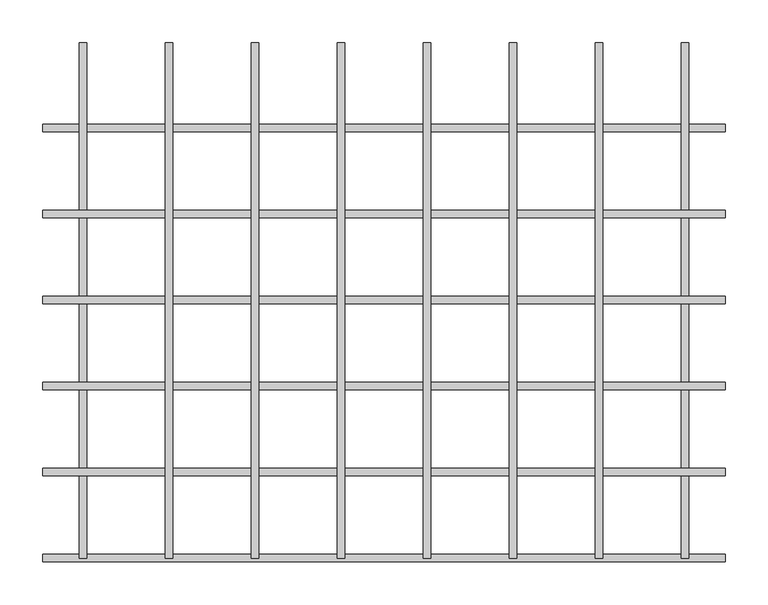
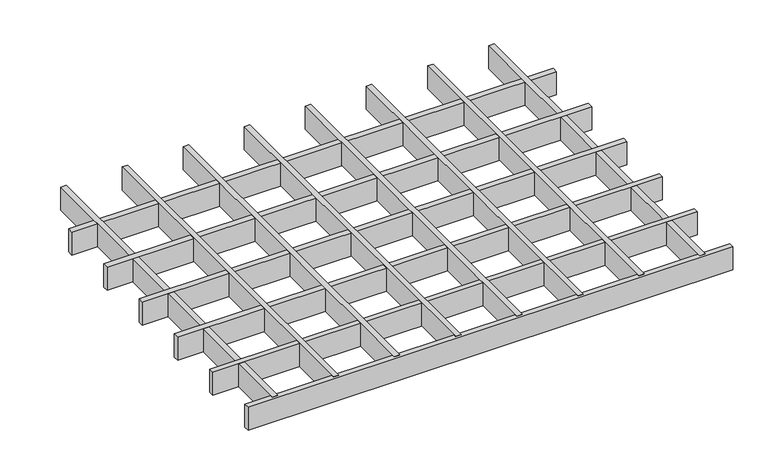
"""IFC4 building model written with IfcOpenShell, lengths in millimetres: proxy geometry, durlum_GEO_panel : durlum_GEO_9_length_cut."""

import ifcopenshell
import ifcopenshell.guid

model = None  # the IFC model being written
_history = None  # IfcOwnerHistory: only IFC2X3 demands one
_inside = {}  # id of a spatial element -> (the spatial element, [elements in it])
_under = {}  # id of a project, library or spatial element -> (it, [spatial elements below it])
_declared = {}  # id of a project -> (the project, [libraries it declares])
_typed = {}  # id of a type object -> (the type object, [elements of that type])
_made_of = {}  # id of a material, layer set ... -> (it, [elements and type objects made of it])


def new_model(schema):
    """Start an empty IFC model of exactly this schema.

    Asked for "IFC4X3", IfcOpenShell would pick the latest addendum, in which some entities
    have other attributes; the version numbers below select the first issue.
    IFC2X3 requires an IfcOwnerHistory on every rooted entity: one is made here for all.
    """
    global model, _history
    if schema == "IFC4X3":
        model = ifcopenshell.file(schema_version=(4, 3, 0, 0))
    else:
        model = ifcopenshell.file(schema=schema)
    _inside.clear()
    _under.clear()
    _declared.clear()
    _typed.clear()
    _made_of.clear()
    _history = None
    if model.schema == "IFC2X3":
        org = make("IfcOrganization", Name="unknown")
        user = make(
            "IfcPersonAndOrganization",
            ThePerson=make("IfcPerson", FamilyName="unknown"),
            TheOrganization=org,
        )
        app = make(
            "IfcApplication",
            ApplicationDeveloper=org,
            Version="unknown",
            ApplicationFullName="unknown",
            ApplicationIdentifier="unknown",
        )
        _history = make(
            "IfcOwnerHistory",
            OwningUser=user,
            OwningApplication=app,
            ChangeAction="ADDED",
            CreationDate=0,
        )
    return model


def make(cls, **values):
    """One entity of the class cls with the attributes given. An attribute that is None is left unset."""
    return model.create_entity(
        cls, **{name: value for name, value in values.items() if value is not None}
    )


def rooted(cls, **values):
    """An entity with a GlobalId (a new one), such as an element, a storey or a relation."""
    return make(cls, GlobalId=ifcopenshell.guid.new(), OwnerHistory=_history, **values)


def si_unit(unit_type, name, prefix=None):
    """IfcSIUnit, for example si_unit("LENGTHUNIT", "METRE", prefix="MILLI")."""
    return make("IfcSIUnit", UnitType=unit_type, Prefix=prefix, Name=name)


def assignment(units):
    """IfcUnitAssignment: the units of a project."""
    return None if units is None else make("IfcUnitAssignment", Units=units)


def point(xyz):
    """IfcCartesianPoint."""
    return None if xyz is None else make("IfcCartesianPoint", Coordinates=xyz)


def direction(xyz):
    """IfcDirection."""
    return None if xyz is None else make("IfcDirection", DirectionRatios=xyz)


def frame(location, z_axis=None, x_axis=None):
    """IfcAxis2Placement3D, a coordinate frame: its origin and axes. An axis left out is left unset."""
    return make(
        "IfcAxis2Placement3D",
        Location=point(location),
        Axis=direction(z_axis),
        RefDirection=direction(x_axis),
    )


def origin():
    """The frame at (0, 0, 0) with its axes left unset."""
    return frame((0.0, 0.0, 0.0))


def origin_with_axes():
    """The frame at (0, 0, 0) with the z axis (0, 0, 1) and the x axis (1, 0, 0) written out."""
    return frame((0.0, 0.0, 0.0), z_axis=(0.0, 0.0, 1.0), x_axis=(1.0, 0.0, 0.0))


def place(relative_to, where):
    """IfcLocalPlacement: puts the frame where relative to a parent placement (None: the world)."""
    return make(
        "IfcLocalPlacement", PlacementRelTo=relative_to, RelativePlacement=where
    )


def context(
    kind, dimensions, precision=None, world=None, true_north=None, identifier=None
):
    """IfcGeometricRepresentationContext, for example the 3D "Model" context."""
    return make(
        "IfcGeometricRepresentationContext",
        ContextIdentifier=identifier,
        ContextType=kind,
        CoordinateSpaceDimension=dimensions,
        Precision=precision,
        WorldCoordinateSystem=world,
        TrueNorth=true_north,
    )


def project(units=None, contexts=None):
    """IfcProject with its units and contexts."""
    return rooted(
        "IfcProject",
        Name="project",
        RepresentationContexts=contexts,
        UnitsInContext=assignment(units),
    )


def spatial(cls, under=None, at=None, **own):
    """A site, building, storey or space (cls), placed at a placement, below another one or the project."""
    s = rooted(cls, ObjectPlacement=at, **own)
    if under is not None:
        _under.setdefault(under.id(), (under, []))[1].append(s)
    return s


def polyline(points):
    """IfcPolyline through the points."""
    return make("IfcPolyline", Points=[point(p) for p in points])


def outline(outer, holes=None, kind="AREA"):
    """IfcArbitraryClosedProfileDef: a profile drawn as a closed curve; with holes, ...WithVoids."""
    if holes is None:
        return make("IfcArbitraryClosedProfileDef", ProfileType=kind, OuterCurve=outer)
    return make(
        "IfcArbitraryProfileDefWithVoids",
        ProfileType=kind,
        OuterCurve=outer,
        InnerCurves=holes,
    )


def extrude(swept, where, along, depth):
    """IfcExtrudedAreaSolid: the profile swept, set in the frame where, extruded along a direction by depth."""
    return make(
        "IfcExtrudedAreaSolid",
        SweptArea=swept,
        Position=where,
        ExtrudedDirection=direction(along),
        Depth=depth,
    )


def shape(context_of_items, identifier, shape_type, items):
    """IfcShapeRepresentation: the items that make up one representation, for example the "Body"."""
    return make(
        "IfcShapeRepresentation",
        ContextOfItems=context_of_items,
        RepresentationIdentifier=identifier,
        RepresentationType=shape_type,
        Items=items,
    )


def source(mapping_origin, context_of_items, identifier, shape_type, items):
    """IfcRepresentationMap: a shape defined once, which mapped items show again and again."""
    return make(
        "IfcRepresentationMap",
        MappingOrigin=mapping_origin,
        MappedRepresentation=shape(context_of_items, identifier, shape_type, items),
    )


def transform(
    local_origin,
    x_axis=None,
    y_axis=None,
    z_axis=None,
    scale=None,
    scale2=None,
    scale3=None,
    uniform=True,
):
    """IfcCartesianTransformationOperator3D, or its non-uniform kind. x_axis, y_axis, z_axis: its Axis1, 2, 3."""
    if uniform:
        return make(
            "IfcCartesianTransformationOperator3D",
            Axis1=direction(x_axis),
            Axis2=direction(y_axis),
            LocalOrigin=point(local_origin),
            Scale=scale,
            Axis3=direction(z_axis),
        )
    return make(
        "IfcCartesianTransformationOperator3DnonUniform",
        Axis1=direction(x_axis),
        Axis2=direction(y_axis),
        LocalOrigin=point(local_origin),
        Scale=scale,
        Axis3=direction(z_axis),
        Scale2=scale2,
        Scale3=scale3,
    )


def mapped(mapping_source, mapping_target):
    """IfcMappedItem: shows the shape of a source again, moved by a transform."""
    return make(
        "IfcMappedItem", MappingSource=mapping_source, MappingTarget=mapping_target
    )


def made_of(thing, what):
    """Note that an element or type object is made of a material, layer set ...; save() writes the relation."""
    if what is not None:
        _made_of.setdefault(what.id(), (what, []))[1].append(thing)
    return thing


def element(
    cls,
    number,
    at=None,
    inside=None,
    cuts=None,
    type_object=None,
    material=None,
    context=None,
    identifier="Body",
    shape_type=None,
    held_by="IfcProductDefinitionShape",
    body=None,
    shapes=None,
    **own,
):
    """One element of the class cls, such as IfcWall. Its Tag is "e" and its number.

    at: its placement. inside: the storey or other place that contains it. cuts: it is an
    opening in that element (IfcRelVoidsElement). A single representation is given by context,
    identifier, shape_type and body (its items); several are given by shapes. held_by: the class
    of the entity that holds the representations. save() writes the other relations.
    """
    e = rooted(cls, Tag="e%d" % number, ObjectPlacement=at, **own)
    if body is not None:
        shapes = [shape(context, identifier, shape_type, body)]
    if shapes is not None:
        e.Representation = make(held_by, Representations=shapes)
    if inside is not None:
        _inside.setdefault(inside.id(), (inside, []))[1].append(e)
    if cuts is not None:
        rooted(
            "IfcRelVoidsElement", RelatingBuildingElement=cuts, RelatedOpeningElement=e
        )
    if type_object is not None:
        _typed.setdefault(type_object.id(), (type_object, []))[1].append(e)
    return made_of(e, material)


def aggregate(whole, parts):
    """IfcRelAggregates: a whole, such as a stair, and the parts it consists of."""
    return rooted("IfcRelAggregates", RelatingObject=whole, RelatedObjects=parts)


def save(model, path):
    """Write the relations noted so far, then the file.

    IfcRelAggregates (storeys below a building ...), IfcRelContainedInSpatialStructure (elements
    in a storey), IfcRelDefinesByType, IfcRelAssociatesMaterial and IfcRelDeclares: one each for
    every whole, place, type object, material and project.
    """
    for whole, parts in _under.values():
        aggregate(whole, parts)
    for where, things in _inside.values():
        rooted(
            "IfcRelContainedInSpatialStructure",
            RelatedElements=things,
            RelatingStructure=where,
        )
    for kind, things in _typed.values():
        rooted("IfcRelDefinesByType", RelatedObjects=things, RelatingType=kind)
    for what, things in _made_of.values():
        rooted("IfcRelAssociatesMaterial", RelatedObjects=things, RelatingMaterial=what)
    for by, libraries in _declared.values():
        rooted("IfcRelDeclares", RelatingContext=by, RelatedDefinitions=libraries)
    model.write(path)


def generic_models_71c4b85c(model_context):
    return source(origin(), model_context, "Body", "SweptSolid", [
        extrude(outline(polyline([(245.5, 299.5), (254.5, 299.5), (254.5, -299.5), (245.5, -299.5), (245.5, 299.5)])), origin_with_axes(), (0.0, 0.0, 1.0), 40.0),
        extrude(outline(polyline([(145.5, 299.5), (154.5, 299.5), (154.5, -299.5), (145.5, -299.5), (145.5, 299.5)])), origin_with_axes(), (0.0, 0.0, 1.0), 40.0),
        extrude(outline(polyline([(45.5, 299.5), (54.5, 299.5), (54.5, -299.5), (45.5, -299.5), (45.5, 299.5)])), origin_with_axes(), (0.0, 0.0, 1.0), 40.0),
        extrude(outline(polyline([(-54.5, 299.5), (-45.5, 299.5), (-45.5, -299.5), (-54.5, -299.5), (-54.5, 299.5)])), origin_with_axes(), (0.0, 0.0, 1.0), 40.0),
        extrude(outline(polyline([(-154.5, 299.5), (-145.5, 299.5), (-145.5, -299.5), (-154.5, -299.5), (-154.5, 299.5)])), origin_with_axes(), (0.0, 0.0, 1.0), 40.0),
        extrude(outline(polyline([(-254.5, 299.5), (-245.5, 299.5), (-245.5, -299.5), (-254.5, -299.5), (-254.5, 299.5)])), origin_with_axes(), (0.0, 0.0, 1.0), 40.0),
        extrude(outline(polyline([(396.5628516, -195.0), (396.5628516, -204.0), (-396.5628516, -204.0), (-396.5628516, -195.0), (396.5628516, -195.0)])), origin_with_axes(), (0.0, 0.0, 1.0), 40.0),
        extrude(outline(polyline([(396.5628516, -95.0), (396.5628516, -104.0), (-396.5628516, -104.0), (-396.5628516, -95.0), (396.5628516, -95.0)])), origin_with_axes(), (0.0, 0.0, 1.0), 40.0),
        extrude(outline(polyline([(396.5628516, 5.0), (396.5628516, -4.0), (-396.5628516, -4.0), (-396.5628516, 5.0), (396.5628516, 5.0)])), origin_with_axes(), (0.0, 0.0, 1.0), 40.0),
        extrude(outline(polyline([(396.5628516, 105.0), (396.5628516, 96.0), (-396.5628516, 96.0), (-396.5628516, 105.0), (396.5628516, 105.0)])), origin_with_axes(), (0.0, 0.0, 1.0), 40.0),
        extrude(outline(polyline([(345.5, 299.5), (354.5, 299.5), (354.5, -299.5), (345.5, -299.5), (345.5, 299.5)])), origin_with_axes(), (0.0, 0.0, 1.0), 40.0),
        extrude(outline(polyline([(-354.5, 299.5), (-345.5, 299.5), (-345.5, -299.5), (-354.5, -299.5), (-354.5, 299.5)])), origin_with_axes(), (0.0, 0.0, 1.0), 40.0),
        extrude(outline(polyline([(396.5628516, -295.0), (396.5628516, -304.0), (-396.5628516, -304.0), (-396.5628516, -295.0), (396.5628516, -295.0)])), origin_with_axes(), (0.0, 0.0, 1.0), 40.0),
        extrude(outline(polyline([(396.5628516, 205.0), (396.5628516, 196.0), (-396.5628516, 196.0), (-396.5628516, 205.0), (396.5628516, 205.0)])), origin_with_axes(), (0.0, 0.0, 1.0), 40.0),
    ])


if __name__ == "__main__":
    model = new_model("IFC4")
    model_context = context("Model", 3, world=origin())
    ifc_project = project(units=[si_unit("LENGTHUNIT", "METRE", prefix="MILLI")], contexts=[model_context])
    site = spatial("IfcSite", under=ifc_project)
    building = spatial("IfcBuilding", under=site)
    placement = place(None, origin())
    generic_models_shape = generic_models_71c4b85c(model_context)
    element("IfcBuildingElementProxy", 1, Name="durlum_GEO_panel : durlum_GEO_9_length_cut", ObjectType="durlum_GEO_panel : durlum_GEO_9_length_cut", at=placement, inside=building, context=model_context, shape_type="MappedRepresentation", body=[
        mapped(generic_models_shape, transform((0.0, 0.0, 0.0), x_axis=(1.0, 0.0, 0.0), y_axis=(0.0, 1.0, 0.0), z_axis=(0.0, 0.0, 1.0))),
    ])
    save(model, "model.ifc")
